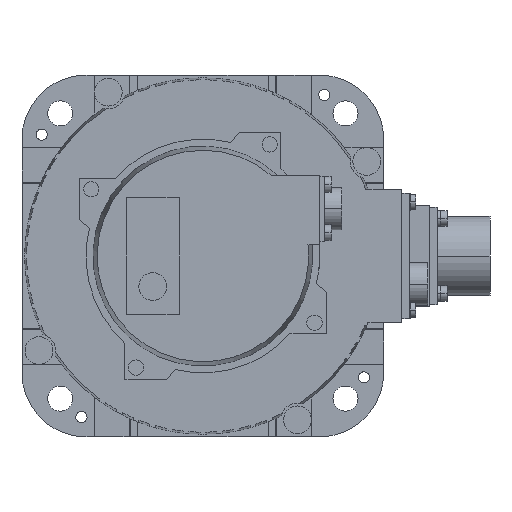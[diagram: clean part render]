
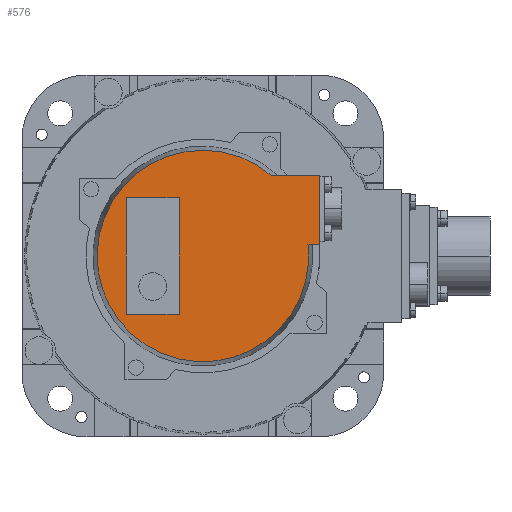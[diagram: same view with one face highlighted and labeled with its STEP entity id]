
A CAD part, left-side view. The second image highlights one B-rep face of the part: STEP entity #576.
In plain terms, the highlighted planar face has unit normal (-1, 0, 0).
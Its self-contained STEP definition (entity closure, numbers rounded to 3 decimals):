
#576=ADVANCED_FACE('',(#5510,#5511),#5509,.F.);
#5509=PLANE('',#10170);
#5510=FACE_OUTER_BOUND('',#10171,.T.);
#5511=FACE_BOUND('',#10172,.T.);
#10167=CARTESIAN_POINT('',(-171.,-52.891,71.254));
#10168=DIRECTION('',(1.,0.,0.));
#10169=DIRECTION('',(0.,0.,-1.));
#10170=AXIS2_PLACEMENT_3D('',#10167,#10168,#10169);
#10171=EDGE_LOOP('',(#14050,#14051,#14052,#14053));
#10172=EDGE_LOOP('',(#14054,#14055,#14056,#14057));
#14050=ORIENTED_EDGE('',*,*,#15336,.F.);
#14051=ORIENTED_EDGE('',*,*,#15127,.F.);
#14052=ORIENTED_EDGE('',*,*,#16693,.F.);
#14053=ORIENTED_EDGE('',*,*,#15119,.F.);
#14054=ORIENTED_EDGE('',*,*,#15454,.F.);
#14055=ORIENTED_EDGE('',*,*,#15458,.F.);
#14056=ORIENTED_EDGE('',*,*,#15461,.F.);
#14057=ORIENTED_EDGE('',*,*,#15464,.F.);
#15119=EDGE_CURVE('',#17131,#17138,#17139,.T.);
#15127=EDGE_CURVE('',#17185,#17192,#17193,.T.);
#15336=EDGE_CURVE('',#17192,#17131,#18626,.T.);
#15454=EDGE_CURVE('',#19423,#19424,#19425,.T.);
#15458=EDGE_CURVE('',#19451,#19423,#19452,.T.);
#15461=EDGE_CURVE('',#19471,#19451,#19472,.T.);
#15464=EDGE_CURVE('',#19424,#19471,#19491,.T.);
#16693=EDGE_CURVE('',#17138,#17185,#27734,.T.);
#17131=VERTEX_POINT('',#29402);
#17138=VERTEX_POINT('',#29407);
#17139=LINE('',#29408,#29409);
#17185=VERTEX_POINT('',#29434);
#17192=VERTEX_POINT('',#29438);
#17193=LINE('',#29439,#29440);
#18626=CIRCLE('',#30362,38.);
#19423=VERTEX_POINT('',#30866);
#19424=VERTEX_POINT('',#30867);
#19425=LINE('',#30868,#30869);
#19451=VERTEX_POINT('',#30882);
#19452=LINE('',#30883,#30884);
#19471=VERTEX_POINT('',#30893);
#19472=LINE('',#30894,#30895);
#19491=LINE('',#30904,#30905);
#27734=LINE('',#35897,#35898);
#29402=CARTESIAN_POINT('',(-171.,-24.556,29.));
#29407=CARTESIAN_POINT('',(-171.,-42.,29.));
#29408=CARTESIAN_POINT('',(-171.,-24.556,29.));
#29409=VECTOR('',#29410,17.444);
#29410=DIRECTION('',(0.,-1.,0.));
#29434=CARTESIAN_POINT('',(-171.,-42.,4.));
#29438=CARTESIAN_POINT('',(-171.,-37.789,4.));
#29439=CARTESIAN_POINT('',(-171.,-42.,4.));
#29440=VECTOR('',#29441,4.211);
#29441=DIRECTION('',(0.,1.,0.));
#30359=CARTESIAN_POINT('',(-171.,0.,0.));
#30360=DIRECTION('',(1.,0.,0.));
#30361=DIRECTION('',(0.,-0.994,0.105));
#30362=AXIS2_PLACEMENT_3D('',#30359,#30360,#30361);
#30866=CARTESIAN_POINT('',(-171.,8.5,-21.));
#30867=CARTESIAN_POINT('',(-171.,8.5,21.));
#30868=CARTESIAN_POINT('',(-171.,8.5,-21.));
#30869=VECTOR('',#30870,42.);
#30870=DIRECTION('',(0.,0.,1.));
#30882=CARTESIAN_POINT('',(-171.,27.5,-21.));
#30883=CARTESIAN_POINT('',(-171.,27.5,-21.));
#30884=VECTOR('',#30885,19.);
#30885=DIRECTION('',(0.,-1.,0.));
#30893=CARTESIAN_POINT('',(-171.,27.5,21.));
#30894=CARTESIAN_POINT('',(-171.,27.5,21.));
#30895=VECTOR('',#30896,42.);
#30896=DIRECTION('',(0.,0.,-1.));
#30904=CARTESIAN_POINT('',(-171.,8.5,21.));
#30905=VECTOR('',#30906,19.);
#30906=DIRECTION('',(0.,1.,0.));
#35897=CARTESIAN_POINT('',(-171.,-42.,29.));
#35898=VECTOR('',#35899,25.);
#35899=DIRECTION('',(0.,0.,-1.));
